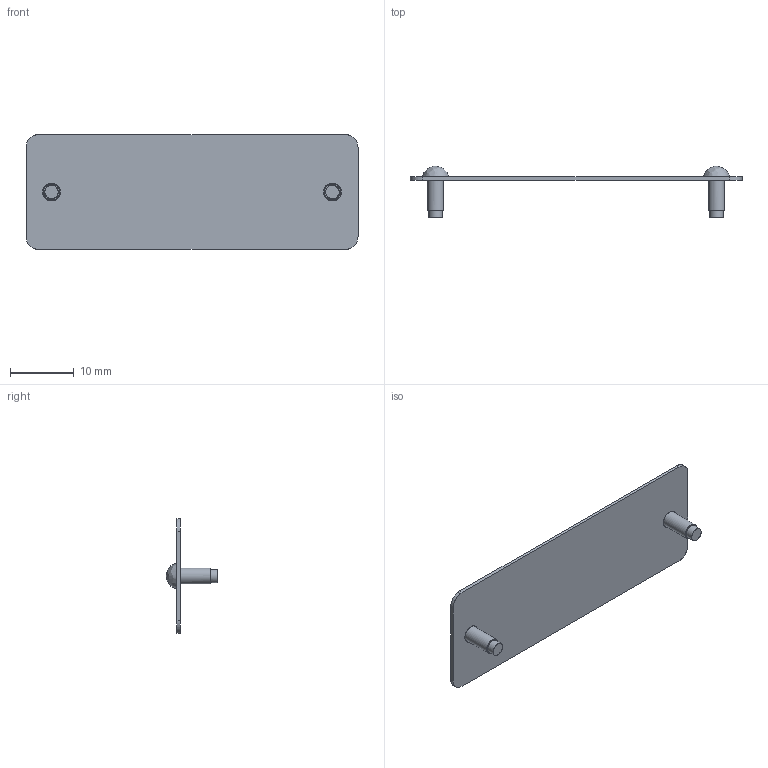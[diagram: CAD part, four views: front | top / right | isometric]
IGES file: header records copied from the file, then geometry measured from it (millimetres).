
Start section: VISI Layer Mapping Iges    VISI  0      LAYER0  1      WARNINGS
Global section: file name: G:\Produktkommunikation\Support\CD-Online-Katalog\3D Daten Produkte\E19120\STEP\E19120_1852_0,5_2.igs; native system: VISI 20.0; preprocessor: 2.0; author: nus; organization: Unknown; date: 20140919.102432; units: millimetre
Bounding box: 52 x 8.1 x 18 mm (x, y, z)
Surface area: 2086.3 mm2 (no closed solid volume)
Topology: 0 solids, 0 shells, 24 faces, 352 edges, 340 vertices
Faces by surface type: bspline 24
